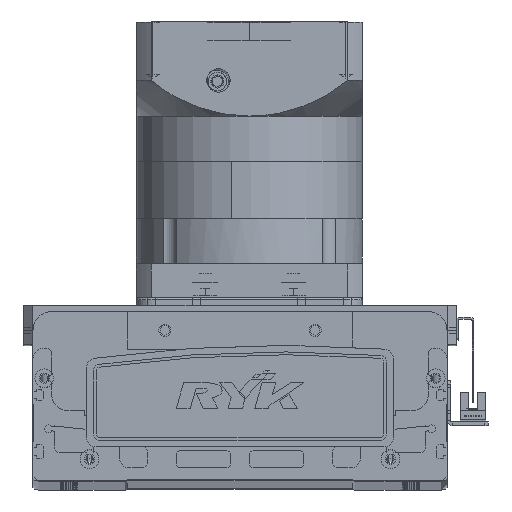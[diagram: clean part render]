
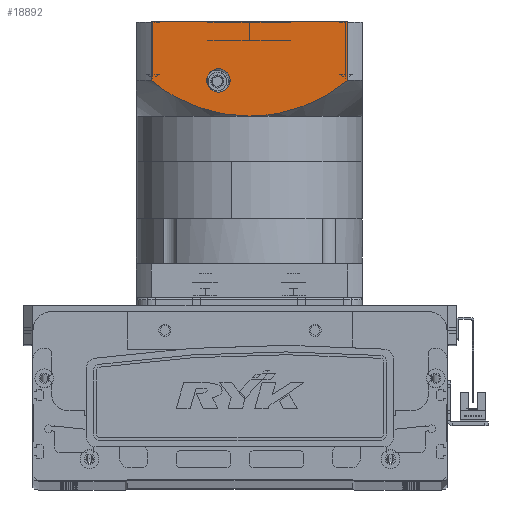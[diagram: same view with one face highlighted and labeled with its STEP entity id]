
A CAD part, top view. The second image highlights one B-rep face of the part: STEP entity #18892.
In plain terms, the highlighted planar face has unit normal (0, 0, 1) as drawn and (0, -1, 0) by its records, which use the part's own axes.
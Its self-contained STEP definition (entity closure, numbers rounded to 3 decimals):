
#1278 = CARTESIAN_POINT ( 'NONE',  ( 0., -60., -100.5 ) ) ;
#3080 = ORIENTED_EDGE ( 'NONE', *, *, #28515, .F. ) ;
#3132 = AXIS2_PLACEMENT_3D ( 'NONE', #3191, #64284, #42490 ) ;
#3191 = CARTESIAN_POINT ( 'NONE',  ( -60., -60., -150.5 ) ) ;
#4312 = CARTESIAN_POINT ( 'NONE',  ( 45.542, -60., -114.478 ) ) ;
#4553 = CARTESIAN_POINT ( 'NONE',  ( 50.338, -60., -117.969 ) ) ;
#5251 = CARTESIAN_POINT ( 'NONE',  ( 4.753, -60., -100.5 ) ) ;
#6322 = EDGE_CURVE ( 'NONE', #38188, #7551, #68062, .T. ) ;
#6392 = CARTESIAN_POINT ( 'NONE',  ( 16.5, -60., -119.5 ) ) ;
#6964 = ORIENTED_EDGE ( 'NONE', *, *, #35818, .F. ) ;
#7551 = VERTEX_POINT ( 'NONE', #45838 ) ;
#8469 = CARTESIAN_POINT ( 'NONE',  ( -60., -60., -150.5 ) ) ;
#10007 = CARTESIAN_POINT ( 'NONE',  ( 52.156, -60., -119.5 ) ) ;
#12443 = CARTESIAN_POINT ( 'NONE',  ( -29.939, -60., -106.183 ) ) ;
#12629 = EDGE_CURVE ( 'NONE', #58023, #40721, #56504, .T. ) ;
#12678 = CARTESIAN_POINT ( 'NONE',  ( -52.156, -60., -119.5 ) ) ;
#13068 = EDGE_LOOP ( 'NONE', ( #14897, #14757 ) ) ;
#13622 = B_SPLINE_CURVE_WITH_KNOTS ( 'NONE', 3,
 ( #12678, #66191, #50049, #23564, #29018, #23104, #60982, #28564, #12443, #33959, #17431, #17897, #23338, #66895, #39882, #45314, #56256, #1278 ),
 .UNSPECIFIED., .F., .F.,
 ( 4, 2, 2, 2, 2, 2, 2, 2, 4 ),
 ( 0., 0.014, 0.018, 0.021, 0.028, 0.042, 0.046, 0.05, 0.057 ),
 .UNSPECIFIED. ) ;
#13678 = DIRECTION ( 'NONE',  ( 0., 0., -1. ) ) ;
#14757 = ORIENTED_EDGE ( 'NONE', *, *, #6322, .T. ) ;
#14897 = ORIENTED_EDGE ( 'NONE', *, *, #40693, .T. ) ;
#14972 = CARTESIAN_POINT ( 'NONE',  ( 19.894, -60., -102.964 ) ) ;
#15368 = LINE ( 'NONE', #20054, #58596 ) ;
#15994 = DIRECTION ( 'NONE',  ( 0., 0., 1. ) ) ;
#17431 = CARTESIAN_POINT ( 'NONE',  ( -18.792, -60., -102.562 ) ) ;
#17658 = FACE_BOUND ( 'NONE', #13068, .T. ) ;
#17897 = CARTESIAN_POINT ( 'NONE',  ( -12.993, -60., -101.537 ) ) ;
#18892 = ADVANCED_FACE ( 'NONE', ( #32049, #17658 ), #35631, .T. ) ;
#19424 = EDGE_LOOP ( 'NONE', ( #6964, #49587, #44235, #3080, #69217 ) ) ;
#20054 = CARTESIAN_POINT ( 'NONE',  ( -52.156, -60., -97.5 ) ) ;
#21117 = CARTESIAN_POINT ( 'NONE',  ( 16.426, -60., -102.169 ) ) ;
#22856 = CARTESIAN_POINT ( 'NONE',  ( 16.5, -60., -119.5 ) ) ;
#23104 = CARTESIAN_POINT ( 'NONE',  ( -36.409, -60., -109.113 ) ) ;
#23338 = CARTESIAN_POINT ( 'NONE',  ( -11.825, -60., -101.356 ) ) ;
#23564 = CARTESIAN_POINT ( 'NONE',  ( -39.546, -60., -110.776 ) ) ;
#23813 = VERTEX_POINT ( 'NONE', #34569 ) ;
#24956 = CIRCLE ( 'NONE', #47656, 6.25 ) ;
#25876 = CARTESIAN_POINT ( 'NONE',  ( 41.545, -60., -111.931 ) ) ;
#26578 = CARTESIAN_POINT ( 'NONE',  ( 15.267, -60., -101.938 ) ) ;
#28515 = EDGE_CURVE ( 'NONE', #70184, #56915, #41950, .T. ) ;
#28564 = CARTESIAN_POINT ( 'NONE',  ( -32.118, -60., -107.084 ) ) ;
#29018 = CARTESIAN_POINT ( 'NONE',  ( -38.51, -60., -110.207 ) ) ;
#30000 = CARTESIAN_POINT ( 'NONE',  ( 0., -60., -100.5 ) ) ;
#31549 = CARTESIAN_POINT ( 'NONE',  ( 32.196, -60., -107.007 ) ) ;
#31873 = CARTESIAN_POINT ( 'NONE',  ( 52.156, -60., -150.5 ) ) ;
#32049 = FACE_OUTER_BOUND ( 'NONE', #19424, .T. ) ;
#33500 = DIRECTION ( 'NONE',  ( 0., 0., -1. ) ) ;
#33959 = CARTESIAN_POINT ( 'NONE',  ( -23.319, -60., -103.777 ) ) ;
#34098 = VECTOR ( 'NONE', #15994, 1000. ) ;
#34204 = DIRECTION ( 'NONE',  ( 0., 1., 0. ) ) ;
#34569 = CARTESIAN_POINT ( 'NONE',  ( -52.156, -60., -119.5 ) ) ;
#35631 = PLANE ( 'NONE',  #3132 ) ;
#35818 = EDGE_CURVE ( 'NONE', #58023, #23813, #15368, .T. ) ;
#36382 = DIRECTION ( 'NONE',  ( 0., 0., 1. ) ) ;
#36757 = CARTESIAN_POINT ( 'NONE',  ( 42.555, -60., -112.543 ) ) ;
#36984 = CARTESIAN_POINT ( 'NONE',  ( 48.457, -60., -116.522 ) ) ;
#38188 = VERTEX_POINT ( 'NONE', #59136 ) ;
#38293 = AXIS2_PLACEMENT_3D ( 'NONE', #22856, #34204, #33500 ) ;
#39042 = EDGE_CURVE ( 'NONE', #23813, #70184, #13622, .T. ) ;
#39472 = DIRECTION ( 'NONE',  ( 0., 1., 0. ) ) ;
#39882 = CARTESIAN_POINT ( 'NONE',  ( -8.294, -60., -100.916 ) ) ;
#40693 = EDGE_CURVE ( 'NONE', #7551, #38188, #24956, .T. ) ;
#40721 = VERTEX_POINT ( 'NONE', #44187 ) ;
#41950 = B_SPLINE_CURVE_WITH_KNOTS ( 'NONE', 3,
 ( #53553, #5251, #48292, #26578, #21117, #47612, #14972, #58318, #42414, #31549, #53091, #25876, #36757, #69432, #4312, #36984, #4553, #10007 ),
 .UNSPECIFIED., .F., .F.,
 ( 4, 2, 2, 2, 2, 2, 2, 2, 4 ),
 ( 0., 0.014, 0.018, 0.021, 0.028, 0.042, 0.046, 0.05, 0.057 ),
 .UNSPECIFIED. ) ;
#42075 = VECTOR ( 'NONE', #51264, 1000. ) ;
#42414 = CARTESIAN_POINT ( 'NONE',  ( 25.577, -60., -104.596 ) ) ;
#42490 = DIRECTION ( 'NONE',  ( 1., 0., 0. ) ) ;
#43385 = LINE ( 'NONE', #31873, #34098 ) ;
#44187 = CARTESIAN_POINT ( 'NONE',  ( 52.156, -60., -150.5 ) ) ;
#44235 = ORIENTED_EDGE ( 'NONE', *, *, #51989, .T. ) ;
#45314 = CARTESIAN_POINT ( 'NONE',  ( -4.747, -60., -100.604 ) ) ;
#45838 = CARTESIAN_POINT ( 'NONE',  ( 16.5, -60., -125.75 ) ) ;
#46734 = CARTESIAN_POINT ( 'NONE',  ( 52.156, -60., -119.5 ) ) ;
#47612 = CARTESIAN_POINT ( 'NONE',  ( 18.739, -60., -102.681 ) ) ;
#47656 = AXIS2_PLACEMENT_3D ( 'NONE', #6392, #39472, #13678 ) ;
#48292 = CARTESIAN_POINT ( 'NONE',  ( 9.454, -60., -100.914 ) ) ;
#49587 = ORIENTED_EDGE ( 'NONE', *, *, #12629, .T. ) ;
#50049 = CARTESIAN_POINT ( 'NONE',  ( -44.656, -60., -113.73 ) ) ;
#51264 = DIRECTION ( 'NONE',  ( 1., 0., 0. ) ) ;
#51989 = EDGE_CURVE ( 'NONE', #40721, #56915, #43385, .T. ) ;
#53091 = CARTESIAN_POINT ( 'NONE',  ( 36.444, -60., -108.986 ) ) ;
#53553 = CARTESIAN_POINT ( 'NONE',  ( 0., -60., -100.5 ) ) ;
#56256 = CARTESIAN_POINT ( 'NONE',  ( -2.376, -60., -100.5 ) ) ;
#56504 = LINE ( 'NONE', #8469, #42075 ) ;
#56915 = VERTEX_POINT ( 'NONE', #46734 ) ;
#57530 = CARTESIAN_POINT ( 'NONE',  ( -52.156, -60., -150.5 ) ) ;
#58023 = VERTEX_POINT ( 'NONE', #57530 ) ;
#58318 = CARTESIAN_POINT ( 'NONE',  ( 23.329, -60., -103.886 ) ) ;
#58596 = VECTOR ( 'NONE', #36382, 1000. ) ;
#59136 = CARTESIAN_POINT ( 'NONE',  ( 16.5, -60., -113.25 ) ) ;
#60982 = CARTESIAN_POINT ( 'NONE',  ( -35.342, -60., -108.587 ) ) ;
#64284 = DIRECTION ( 'NONE',  ( 0., -1., 0. ) ) ;
#66191 = CARTESIAN_POINT ( 'NONE',  ( -48.52, -60., -116.438 ) ) ;
#66895 = CARTESIAN_POINT ( 'NONE',  ( -9.477, -60., -101.046 ) ) ;
#68062 = CIRCLE ( 'NONE', #38293, 6.25 ) ;
#69217 = ORIENTED_EDGE ( 'NONE', *, *, #39042, .F. ) ;
#69432 = CARTESIAN_POINT ( 'NONE',  ( 44.553, -60., -113.817 ) ) ;
#70184 = VERTEX_POINT ( 'NONE', #30000 ) ;
